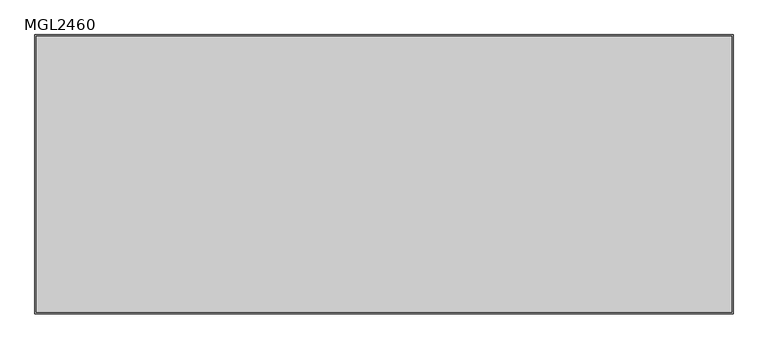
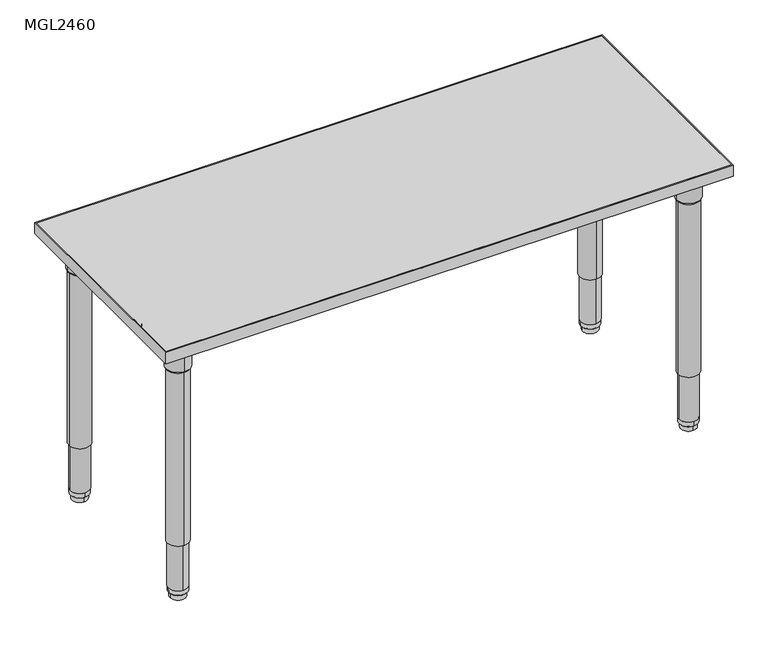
"""IFC4 building model written with IfcOpenShell, lengths in millimetres: furniture geometry, ERG-Mingle-Table-Rectangle : MGL2460."""

from ifc_helpers import new_model, si_unit, point, frame, frame_2d, origin, place, context, project, spatial, polyline, circle_curve, trimmed, segment, composite_curve, outline, extrude, source, transform, mapped, element, save
from ifc_brep_helpers import plane_surface, cylinder_surface, revolved_surface, advanced_brep


def mgl2460_92f67adb(model_context):
    return source(origin(), model_context, "Body", "SolidModel", [
        advanced_brep(
        [(655.7646842, -228.6, 650.5933069), (715.8353158, -228.6, 650.5933069), (685.8, -228.6, 650.5933069), (653.656117, -228.6, 654.3580481), (717.943883, -228.6, 654.3580481), (652.7206351, -228.6, 707.7631458), (718.8793649, -228.6, 707.7631458), (649.271083, -228.6, 714.1198315), (722.328917, -228.6, 714.1198315), (649.271083, -228.6, 726.8198315), (722.328917, -228.6, 726.8198315), (685.8, -228.6, 726.8198315)],
        [
            (0, 1, circle_curve(frame((685.8, -228.6, 650.5933069), z_axis=(0.0, 0.0, -1.0), x_axis=(1.0, 0.0, 0.0)), 30.0353158)),
            (1, 2),
            (2, 0),
            (1, 0, circle_curve(frame((685.8, -228.6, 650.5933069), z_axis=(0.0, 0.0, -1.0), x_axis=(1.0, 0.0, 0.0)), 30.0353158)),
            (3, 4, circle_curve(frame((685.8, -228.6, 654.3580481), z_axis=(0.0, 0.0, -1.0), x_axis=(1.0, 0.0, 0.0)), 32.143883)),
            (4, 1),
            (0, 3),
            (4, 3, circle_curve(frame((685.8, -228.6, 654.3580481), z_axis=(0.0, 0.0, -1.0), x_axis=(1.0, 0.0, 0.0)), 32.143883)),
            (5, 6, circle_curve(frame((685.8, -228.6, 707.7631458), z_axis=(0.0, 0.0, -1.0), x_axis=(1.0, 0.0, 0.0)), 33.0793649)),
            (6, 4),
            (3, 5),
            (6, 5, circle_curve(frame((685.8, -228.6, 707.7631458), z_axis=(0.0, 0.0, -1.0), x_axis=(1.0, 0.0, 0.0)), 33.0793649)),
            (7, 8, circle_curve(frame((685.8, -228.6, 714.1198315), z_axis=(0.0, 0.0, -1.0), x_axis=(1.0, 0.0, 0.0)), 36.528917)),
            (8, 6),
            (5, 7),
            (8, 7, circle_curve(frame((685.8, -228.6, 714.1198315), z_axis=(0.0, 0.0, -1.0), x_axis=(1.0, 0.0, 0.0)), 36.528917)),
            (9, 10, circle_curve(frame((685.8, -228.6, 726.8198315), z_axis=(0.0, 0.0, -1.0), x_axis=(1.0, 0.0, 0.0)), 36.528917)),
            (10, 8),
            (7, 9),
            (10, 9, circle_curve(frame((685.8, -228.6, 726.8198315), z_axis=(0.0, 0.0, -1.0), x_axis=(1.0, 0.0, 0.0)), 36.528917)),
            (11, 10),
            (9, 11),
        ],
        [
            plane_surface(frame((685.8, -228.6, 650.5933069), z_axis=(0.0, 0.0, -1.0), x_axis=(1.0, 0.0, 0.0))),
            revolved_surface(polyline([(715.8353158, -228.6, 650.5933069), (717.943883, -228.6, 654.3580481)]), (685.8, -228.6, 726.8198315), (0.0, 0.0, 1.0)),
            revolved_surface(polyline([(717.943883, -228.6, 654.3580481), (718.8793649, -228.6, 707.7631458)]), (685.8, -228.6, 726.8198315), (0.0, 0.0, 1.0)),
            revolved_surface(polyline([(718.8793649, -228.6, 707.7631458), (722.328917, -228.6, 714.1198315)]), (685.8, -228.6, 726.8198315), (0.0, 0.0, 1.0)),
            cylinder_surface(frame((685.8, -228.6, 726.8198315), z_axis=(0.0, 0.0, 1.0), x_axis=(1.0, 0.0, 0.0)), 36.528917),
            plane_surface(frame((685.8, -228.6, 726.8198315), z_axis=(0.0, 0.0, 1.0), x_axis=(1.0, 0.0, 0.0))),
        ],
        [
            (0, [[1, 2, 3]]),
            (0, [[4, -3, -2]]),
            (1, [[5, 6, -1, 7]]),
            (1, [[8, -7, -4, -6]]),
            (2, [[9, 10, -5, 11]]),
            (2, [[12, -11, -8, -10]]),
            (3, [[13, 14, -9, 15]]),
            (3, [[16, -15, -12, -14]]),
            (4, [[17, 18, -13, 19]]),
            (4, [[20, -19, -16, -18]]),
            (5, [[21, -17, 22]]),
            (5, [[-22, -20, -21]]),
        ],
    ),
        extrude(outline(composite_curve([segment(polyline([(731.673768, -146.0223426), (731.673768, -259.7483754)]), True, "CONTINUOUS"), segment(trimmed(circle_curve(frame_2d((715.798768, -259.7483754)), 15.875), [point((731.673768, -259.7483754))], [point((715.798768, -275.6233754))], False, "CARTESIAN"), True, "CONTINUOUS"), segment(polyline([(715.798768, -275.6233754), (602.0864205, -275.6233754)]), True, "CONTINUOUS"), segment(trimmed(circle_curve(frame_2d((602.0864205, -262.9233754)), 12.7), [point((602.0864205, -275.6233754))], [point((589.4491923, -261.6622394))], False, "CARTESIAN"), True, "CONTINUOUS"), segment(trimmed(circle_curve(frame_2d((731.9486077, -275.8830117)), 143.2072406), [point((589.4491923, -261.6622394))], [point((717.7111525, -133.3852622))], False, "CARTESIAN"), True, "CONTINUOUS"), segment(trimmed(circle_curve(frame_2d((718.973768, -146.0223426)), 12.7), [point((717.7111525, -133.3852622))], [point((731.673768, -146.0223426))], False, "CARTESIAN"), True, "CONTINUOUS")], self_intersect=False)), frame((0.0, 0.0, 726.8198315), z_axis=(0.0, 0.0, 1.0), x_axis=(1.0, 0.0, 0.0)), (0.0, 0.0, 1.0), 3.4301685),
        extrude(outline(composite_curve([segment(trimmed(circle_curve(frame_2d((685.8, -228.6)), 28.575), [point((714.375, -228.6))], [point((657.225, -228.6))], False, "CARTESIAN"), True, "CONTINUOUS"), segment(trimmed(circle_curve(frame_2d((685.8, -228.6)), 28.575), [point((657.225, -228.6))], [point((714.375, -228.6))], False, "CARTESIAN"), True, "CONTINUOUS")], self_intersect=False)), frame((0.0, 0.0, 158.3876979), z_axis=(0.0, 0.0, 1.0), x_axis=(1.0, 0.0, 0.0)), (0.0, 0.0, 1.0), 495.4089866),
        extrude(outline(composite_curve([segment(trimmed(circle_curve(frame_2d((685.8, -228.6)), 25.4), [point((711.2, -228.6))], [point((660.4, -228.6))], False, "CARTESIAN"), True, "CONTINUOUS"), segment(trimmed(circle_curve(frame_2d((685.8, -228.6)), 25.4), [point((660.4, -228.6))], [point((711.2, -228.6))], False, "CARTESIAN"), True, "CONTINUOUS")], self_intersect=False)), frame((0.0, 0.0, 28.9580435), z_axis=(0.0, 0.0, 1.0), x_axis=(1.0, 0.0, 0.0)), (0.0, 0.0, 1.0), 176.7049119),
        advanced_brep(
        [(685.8, -203.3649896, 28.9580185), (685.8, -253.8350104, 28.9580185), (685.8, -228.6, 28.9580185), (685.8, -203.500761, 16.3032949), (685.8, -253.699239, 16.3032949), (685.8, -205.0160619, 14.7291007), (685.8, -252.1839381, 14.7291007), (685.8, -207.4591422, 14.7291007), (685.8, -249.7408578, 14.7291007), (685.8, -207.6521336, 0.0), (685.8, -249.5478664, 0.0), (685.8, -228.6, 0.0)],
        [
            (0, 1, circle_curve(frame((685.8, -228.6, 28.9580185), z_axis=(0.0, 0.0, 1.0), x_axis=(0.0, -1.0, 0.0)), 25.2350104)),
            (1, 2),
            (2, 0),
            (1, 0, circle_curve(frame((685.8, -228.6, 28.9580185), z_axis=(0.0, 0.0, 1.0), x_axis=(0.0, -1.0, 0.0)), 25.2350104)),
            (3, 4, circle_curve(frame((685.8, -228.6, 16.3032949), z_axis=(0.0, 0.0, 1.0), x_axis=(0.0, -1.0, 0.0)), 25.099239)),
            (4, 1),
            (0, 3),
            (4, 3, circle_curve(frame((685.8, -228.6, 16.3032949), z_axis=(0.0, 0.0, 1.0), x_axis=(0.0, -1.0, 0.0)), 25.099239)),
            (5, 6, circle_curve(frame((685.8, -228.6, 14.7291007), z_axis=(0.0, 0.0, 1.0), x_axis=(0.0, -1.0, 0.0)), 23.5839381)),
            (6, 4),
            (3, 5),
            (6, 5, circle_curve(frame((685.8, -228.6, 14.7291007), z_axis=(0.0, 0.0, 1.0), x_axis=(0.0, -1.0, 0.0)), 23.5839381)),
            (7, 8, circle_curve(frame((685.8, -228.6, 14.7291007), z_axis=(0.0, 0.0, 1.0), x_axis=(0.0, -1.0, 0.0)), 21.1408578)),
            (8, 6),
            (5, 7),
            (8, 7, circle_curve(frame((685.8, -228.6, 14.7291007), z_axis=(0.0, 0.0, 1.0), x_axis=(0.0, -1.0, 0.0)), 21.1408578)),
            (9, 10, circle_curve(frame((685.8, -228.6, 0.0), z_axis=(0.0, 0.0, 1.0), x_axis=(0.0, -1.0, 0.0)), 20.9478664)),
            (10, 8),
            (7, 9),
            (10, 9, circle_curve(frame((685.8, -228.6, 0.0), z_axis=(0.0, 0.0, 1.0), x_axis=(0.0, -1.0, 0.0)), 20.9478664)),
            (11, 10),
            (9, 11),
        ],
        [
            plane_surface(frame((685.8, -228.6, 28.9580185), z_axis=(0.0, 0.0, 1.0), x_axis=(0.0, -1.0, 0.0))),
            revolved_surface(polyline([(685.8, -253.8350104, 28.9580185), (685.8, -253.699239, 16.3032949)]), (685.8, -228.6, 0.0), (0.0, 0.0, -1.0)),
            revolved_surface(polyline([(685.8, -253.699239, 16.3032949), (685.8, -252.1839381, 14.7291007)]), (685.8, -228.6, 0.0), (0.0, 0.0, -1.0)),
            plane_surface(frame((685.8, -228.6, 14.7291007), z_axis=(0.0, 0.0, -1.0), x_axis=(0.0, -1.0, 0.0))),
            revolved_surface(polyline([(685.8, -249.7408578, 14.7291007), (685.8, -249.5478664, 0.0)]), (685.8, -228.6, 0.0), (0.0, 0.0, -1.0)),
            plane_surface(frame((685.8, -228.6, 0.0), z_axis=(0.0, 0.0, -1.0), x_axis=(0.0, -1.0, 0.0))),
        ],
        [
            (0, [[1, 2, 3]]),
            (0, [[4, -3, -2]]),
            (1, [[5, 6, -1, 7]]),
            (1, [[8, -7, -4, -6]]),
            (2, [[9, 10, -5, 11]]),
            (2, [[12, -11, -8, -10]]),
            (3, [[13, 14, -9, 15]]),
            (3, [[16, -15, -12, -14]]),
            (4, [[17, 18, -13, 19]]),
            (4, [[20, -19, -16, -18]]),
            (5, [[21, -17, 22]]),
            (5, [[-22, -20, -21]]),
        ],
    ),
        advanced_brep(
        [(-685.8, -198.5646842, 650.5933069), (-685.8, -258.6353158, 650.5933069), (-685.8, -228.6, 650.5933069), (-685.8, -196.456117, 654.3580481), (-685.8, -260.743883, 654.3580481), (-685.8, -195.5206351, 707.7631458), (-685.8, -261.6793649, 707.7631458), (-685.8, -192.071083, 714.1198315), (-685.8, -265.128917, 714.1198315), (-685.8, -192.071083, 726.8198315), (-685.8, -265.128917, 726.8198315), (-685.8, -228.6, 726.8198315)],
        [
            (0, 1, circle_curve(frame((-685.8, -228.6, 650.5933069), z_axis=(0.0, 0.0, -1.0), x_axis=(0.0, -1.0, 0.0)), 30.0353158)),
            (1, 2),
            (2, 0),
            (1, 0, circle_curve(frame((-685.8, -228.6, 650.5933069), z_axis=(0.0, 0.0, -1.0), x_axis=(0.0, -1.0, 0.0)), 30.0353158)),
            (3, 4, circle_curve(frame((-685.8, -228.6, 654.3580481), z_axis=(0.0, 0.0, -1.0), x_axis=(0.0, -1.0, 0.0)), 32.143883)),
            (4, 1),
            (0, 3),
            (4, 3, circle_curve(frame((-685.8, -228.6, 654.3580481), z_axis=(0.0, 0.0, -1.0), x_axis=(0.0, -1.0, 0.0)), 32.143883)),
            (5, 6, circle_curve(frame((-685.8, -228.6, 707.7631458), z_axis=(0.0, 0.0, -1.0), x_axis=(0.0, -1.0, 0.0)), 33.0793649)),
            (6, 4),
            (3, 5),
            (6, 5, circle_curve(frame((-685.8, -228.6, 707.7631458), z_axis=(0.0, 0.0, -1.0), x_axis=(0.0, -1.0, 0.0)), 33.0793649)),
            (7, 8, circle_curve(frame((-685.8, -228.6, 714.1198315), z_axis=(0.0, 0.0, -1.0), x_axis=(0.0, -1.0, 0.0)), 36.528917)),
            (8, 6),
            (5, 7),
            (8, 7, circle_curve(frame((-685.8, -228.6, 714.1198315), z_axis=(0.0, 0.0, -1.0), x_axis=(0.0, -1.0, 0.0)), 36.528917)),
            (9, 10, circle_curve(frame((-685.8, -228.6, 726.8198315), z_axis=(0.0, 0.0, -1.0), x_axis=(0.0, -1.0, 0.0)), 36.528917)),
            (10, 8),
            (7, 9),
            (10, 9, circle_curve(frame((-685.8, -228.6, 726.8198315), z_axis=(0.0, 0.0, -1.0), x_axis=(0.0, -1.0, 0.0)), 36.528917)),
            (11, 10),
            (9, 11),
        ],
        [
            plane_surface(frame((-685.8, -228.6, 650.5933069), z_axis=(0.0, 0.0, -1.0), x_axis=(0.0, -1.0, 0.0))),
            revolved_surface(polyline([(-685.8, -258.6353158, 650.5933069), (-685.8, -260.743883, 654.3580481)]), (-685.8, -228.6, 726.8198315), (0.0, 0.0, 1.0)),
            revolved_surface(polyline([(-685.8, -260.743883, 654.3580481), (-685.8, -261.6793649, 707.7631458)]), (-685.8, -228.6, 726.8198315), (0.0, 0.0, 1.0)),
            revolved_surface(polyline([(-685.8, -261.6793649, 707.7631458), (-685.8, -265.128917, 714.1198315)]), (-685.8, -228.6, 726.8198315), (0.0, 0.0, 1.0)),
            cylinder_surface(frame((-685.8, -228.6, 726.8198315), z_axis=(0.0, 0.0, 1.0), x_axis=(0.0, -1.0, 0.0)), 36.528917),
            plane_surface(frame((-685.8, -228.6, 726.8198315), z_axis=(0.0, 0.0, 1.0), x_axis=(0.0, -1.0, 0.0))),
        ],
        [
            (0, [[1, 2, 3]]),
            (0, [[4, -3, -2]]),
            (1, [[5, 6, -1, 7]]),
            (1, [[8, -7, -4, -6]]),
            (2, [[9, 10, -5, 11]]),
            (2, [[12, -11, -8, -10]]),
            (3, [[13, 14, -9, 15]]),
            (3, [[16, -15, -12, -14]]),
            (4, [[17, 18, -13, 19]]),
            (4, [[20, -19, -16, -18]]),
            (5, [[21, -17, 22]]),
            (5, [[-22, -20, -21]]),
        ],
    ),
        extrude(outline(composite_curve([segment(polyline([(-603.2223426, -274.473768), (-716.9483754, -274.473768)]), True, "CONTINUOUS"), segment(trimmed(circle_curve(frame_2d((-716.9483754, -258.598768)), 15.875), [point((-716.9483754, -274.473768))], [point((-732.8233754, -258.598768))], False, "CARTESIAN"), True, "CONTINUOUS"), segment(polyline([(-732.8233754, -258.598768), (-732.8233754, -144.8864205)]), True, "CONTINUOUS"), segment(trimmed(circle_curve(frame_2d((-720.1233754, -144.8864205)), 12.7), [point((-732.8233754, -144.8864205))], [point((-718.8622394, -132.2491923))], False, "CARTESIAN"), True, "CONTINUOUS"), segment(trimmed(circle_curve(frame_2d((-733.0830117, -274.7486077)), 143.2072406), [point((-718.8622394, -132.2491923))], [point((-590.5852622, -260.5111525))], False, "CARTESIAN"), True, "CONTINUOUS"), segment(trimmed(circle_curve(frame_2d((-603.2223426, -261.773768)), 12.7), [point((-590.5852622, -260.5111525))], [point((-603.2223426, -274.473768))], False, "CARTESIAN"), True, "CONTINUOUS")], self_intersect=False)), frame((0.0, 0.0, 726.8198315), z_axis=(0.0, 0.0, 1.0), x_axis=(1.0, 0.0, 0.0)), (0.0, 0.0, 1.0), 3.4301685),
        extrude(outline(composite_curve([segment(trimmed(circle_curve(frame_2d((-685.8, -228.6)), 28.575), [point((-685.8, -257.175))], [point((-685.8, -200.025))], False, "CARTESIAN"), True, "CONTINUOUS"), segment(trimmed(circle_curve(frame_2d((-685.8, -228.6)), 28.575), [point((-685.8, -200.025))], [point((-685.8, -257.175))], False, "CARTESIAN"), True, "CONTINUOUS")], self_intersect=False)), frame((0.0, 0.0, 158.3876979), z_axis=(0.0, 0.0, 1.0), x_axis=(1.0, 0.0, 0.0)), (0.0, 0.0, 1.0), 495.4089866),
        extrude(outline(composite_curve([segment(trimmed(circle_curve(frame_2d((-685.8, -228.6)), 25.4), [point((-685.8, -254.0))], [point((-685.8, -203.2))], False, "CARTESIAN"), True, "CONTINUOUS"), segment(trimmed(circle_curve(frame_2d((-685.8, -228.6)), 25.4), [point((-685.8, -203.2))], [point((-685.8, -254.0))], False, "CARTESIAN"), True, "CONTINUOUS")], self_intersect=False)), frame((0.0, 0.0, 28.9580435), z_axis=(0.0, 0.0, 1.0), x_axis=(1.0, 0.0, 0.0)), (0.0, 0.0, 1.0), 176.7049119),
        advanced_brep(
        [(-660.5649896, -228.6, 28.9580185), (-711.0350104, -228.6, 28.9580185), (-685.8, -228.6, 28.9580185), (-660.700761, -228.6, 16.3032949), (-710.899239, -228.6, 16.3032949), (-662.2160619, -228.6, 14.7291007), (-709.3839381, -228.6, 14.7291007), (-664.6591422, -228.6, 14.7291007), (-706.9408578, -228.6, 14.7291007), (-664.8521336, -228.6, 0.0), (-706.7478664, -228.6, 0.0), (-685.8, -228.6, 0.0)],
        [
            (0, 1, circle_curve(frame((-685.8, -228.6, 28.9580185), z_axis=(0.0, 0.0, 1.0), x_axis=(-1.0, 0.0, 0.0)), 25.2350104)),
            (1, 2),
            (2, 0),
            (1, 0, circle_curve(frame((-685.8, -228.6, 28.9580185), z_axis=(0.0, 0.0, 1.0), x_axis=(-1.0, 0.0, 0.0)), 25.2350104)),
            (3, 4, circle_curve(frame((-685.8, -228.6, 16.3032949), z_axis=(0.0, 0.0, 1.0), x_axis=(-1.0, 0.0, 0.0)), 25.099239)),
            (4, 1),
            (0, 3),
            (4, 3, circle_curve(frame((-685.8, -228.6, 16.3032949), z_axis=(0.0, 0.0, 1.0), x_axis=(-1.0, 0.0, 0.0)), 25.099239)),
            (5, 6, circle_curve(frame((-685.8, -228.6, 14.7291007), z_axis=(0.0, 0.0, 1.0), x_axis=(-1.0, 0.0, 0.0)), 23.5839381)),
            (6, 4),
            (3, 5),
            (6, 5, circle_curve(frame((-685.8, -228.6, 14.7291007), z_axis=(0.0, 0.0, 1.0), x_axis=(-1.0, 0.0, 0.0)), 23.5839381)),
            (7, 8, circle_curve(frame((-685.8, -228.6, 14.7291007), z_axis=(0.0, 0.0, 1.0), x_axis=(-1.0, 0.0, 0.0)), 21.1408578)),
            (8, 6),
            (5, 7),
            (8, 7, circle_curve(frame((-685.8, -228.6, 14.7291007), z_axis=(0.0, 0.0, 1.0), x_axis=(-1.0, 0.0, 0.0)), 21.1408578)),
            (9, 10, circle_curve(frame((-685.8, -228.6, 0.0), z_axis=(0.0, 0.0, 1.0), x_axis=(-1.0, 0.0, 0.0)), 20.9478664)),
            (10, 8),
            (7, 9),
            (10, 9, circle_curve(frame((-685.8, -228.6, 0.0), z_axis=(0.0, 0.0, 1.0), x_axis=(-1.0, 0.0, 0.0)), 20.9478664)),
            (11, 10),
            (9, 11),
        ],
        [
            plane_surface(frame((-685.8, -228.6, 28.9580185), z_axis=(0.0, 0.0, 1.0), x_axis=(-1.0, 0.0, 0.0))),
            revolved_surface(polyline([(-711.0350104, -228.6, 28.9580185), (-710.899239, -228.6, 16.3032949)]), (-685.8, -228.6, 0.0), (0.0, 0.0, -1.0)),
            revolved_surface(polyline([(-710.899239, -228.6, 16.3032949), (-709.3839381, -228.6, 14.7291007)]), (-685.8, -228.6, 0.0), (0.0, 0.0, -1.0)),
            plane_surface(frame((-685.8, -228.6, 14.7291007), z_axis=(0.0, 0.0, -1.0), x_axis=(-1.0, 0.0, 0.0))),
            revolved_surface(polyline([(-706.9408578, -228.6, 14.7291007), (-706.7478664, -228.6, 0.0)]), (-685.8, -228.6, 0.0), (0.0, 0.0, -1.0)),
            plane_surface(frame((-685.8, -228.6, 0.0), z_axis=(0.0, 0.0, -1.0), x_axis=(-1.0, 0.0, 0.0))),
        ],
        [
            (0, [[1, 2, 3]]),
            (0, [[4, -3, -2]]),
            (1, [[5, 6, -1, 7]]),
            (1, [[8, -7, -4, -6]]),
            (2, [[9, 10, -5, 11]]),
            (2, [[12, -11, -8, -10]]),
            (3, [[13, 14, -9, 15]]),
            (3, [[16, -15, -12, -14]]),
            (4, [[17, 18, -13, 19]]),
            (4, [[20, -19, -16, -18]]),
            (5, [[21, -17, 22]]),
            (5, [[-22, -20, -21]]),
        ],
    ),
        advanced_brep(
        [(685.8, 198.5646842, 650.5933069), (685.8, 258.6353158, 650.5933069), (685.8, 228.6, 650.5933069), (685.8, 196.456117, 654.3580481), (685.8, 260.743883, 654.3580481), (685.8, 195.5206351, 707.7631458), (685.8, 261.6793649, 707.7631458), (685.8, 192.071083, 714.1198315), (685.8, 265.128917, 714.1198315), (685.8, 192.071083, 726.8198315), (685.8, 265.128917, 726.8198315), (685.8, 228.6, 726.8198315)],
        [
            (0, 1, circle_curve(frame((685.8, 228.6, 650.5933069), z_axis=(0.0, 0.0, -1.0), x_axis=(0.0, 1.0, 0.0)), 30.0353158)),
            (1, 2),
            (2, 0),
            (1, 0, circle_curve(frame((685.8, 228.6, 650.5933069), z_axis=(0.0, 0.0, -1.0), x_axis=(0.0, 1.0, 0.0)), 30.0353158)),
            (3, 4, circle_curve(frame((685.8, 228.6, 654.3580481), z_axis=(0.0, 0.0, -1.0), x_axis=(0.0, 1.0, 0.0)), 32.143883)),
            (4, 1),
            (0, 3),
            (4, 3, circle_curve(frame((685.8, 228.6, 654.3580481), z_axis=(0.0, 0.0, -1.0), x_axis=(0.0, 1.0, 0.0)), 32.143883)),
            (5, 6, circle_curve(frame((685.8, 228.6, 707.7631458), z_axis=(0.0, 0.0, -1.0), x_axis=(0.0, 1.0, 0.0)), 33.0793649)),
            (6, 4),
            (3, 5),
            (6, 5, circle_curve(frame((685.8, 228.6, 707.7631458), z_axis=(0.0, 0.0, -1.0), x_axis=(0.0, 1.0, 0.0)), 33.0793649)),
            (7, 8, circle_curve(frame((685.8, 228.6, 714.1198315), z_axis=(0.0, 0.0, -1.0), x_axis=(0.0, 1.0, 0.0)), 36.528917)),
            (8, 6),
            (5, 7),
            (8, 7, circle_curve(frame((685.8, 228.6, 714.1198315), z_axis=(0.0, 0.0, -1.0), x_axis=(0.0, 1.0, 0.0)), 36.528917)),
            (9, 10, circle_curve(frame((685.8, 228.6, 726.8198315), z_axis=(0.0, 0.0, -1.0), x_axis=(0.0, 1.0, 0.0)), 36.528917)),
            (10, 8),
            (7, 9),
            (10, 9, circle_curve(frame((685.8, 228.6, 726.8198315), z_axis=(0.0, 0.0, -1.0), x_axis=(0.0, 1.0, 0.0)), 36.528917)),
            (11, 10),
            (9, 11),
        ],
        [
            plane_surface(frame((685.8, 228.6, 650.5933069), z_axis=(0.0, 0.0, -1.0), x_axis=(0.0, 1.0, 0.0))),
            revolved_surface(polyline([(685.8, 258.6353158, 650.5933069), (685.8, 260.743883, 654.3580481)]), (685.8, 228.6, 726.8198315), (0.0, 0.0, 1.0)),
            revolved_surface(polyline([(685.8, 260.743883, 654.3580481), (685.8, 261.6793649, 707.7631458)]), (685.8, 228.6, 726.8198315), (0.0, 0.0, 1.0)),
            revolved_surface(polyline([(685.8, 261.6793649, 707.7631458), (685.8, 265.128917, 714.1198315)]), (685.8, 228.6, 726.8198315), (0.0, 0.0, 1.0)),
            cylinder_surface(frame((685.8, 228.6, 726.8198315), z_axis=(0.0, 0.0, 1.0), x_axis=(0.0, 1.0, 0.0)), 36.528917),
            plane_surface(frame((685.8, 228.6, 726.8198315), z_axis=(0.0, 0.0, 1.0), x_axis=(0.0, 1.0, 0.0))),
        ],
        [
            (0, [[1, 2, 3]]),
            (0, [[4, -3, -2]]),
            (1, [[5, 6, -1, 7]]),
            (1, [[8, -7, -4, -6]]),
            (2, [[9, 10, -5, 11]]),
            (2, [[12, -11, -8, -10]]),
            (3, [[13, 14, -9, 15]]),
            (3, [[16, -15, -12, -14]]),
            (4, [[17, 18, -13, 19]]),
            (4, [[20, -19, -16, -18]]),
            (5, [[21, -17, 22]]),
            (5, [[-22, -20, -21]]),
        ],
    ),
        extrude(outline(composite_curve([segment(polyline([(603.2223426, 274.473768), (716.9483754, 274.473768)]), True, "CONTINUOUS"), segment(trimmed(circle_curve(frame_2d((716.9483754, 258.598768)), 15.875), [point((716.9483754, 274.473768))], [point((732.8233754, 258.598768))], False, "CARTESIAN"), True, "CONTINUOUS"), segment(polyline([(732.8233754, 258.598768), (732.8233754, 144.8864205)]), True, "CONTINUOUS"), segment(trimmed(circle_curve(frame_2d((720.1233754, 144.8864205)), 12.7), [point((732.8233754, 144.8864205))], [point((718.8622394, 132.2491923))], False, "CARTESIAN"), True, "CONTINUOUS"), segment(trimmed(circle_curve(frame_2d((733.0830117, 274.7486077)), 143.2072406), [point((718.8622394, 132.2491923))], [point((590.5852622, 260.5111525))], False, "CARTESIAN"), True, "CONTINUOUS"), segment(trimmed(circle_curve(frame_2d((603.2223426, 261.773768)), 12.7), [point((590.5852622, 260.5111525))], [point((603.2223426, 274.473768))], False, "CARTESIAN"), True, "CONTINUOUS")], self_intersect=False)), frame((0.0, 0.0, 726.8198315), z_axis=(0.0, 0.0, 1.0), x_axis=(1.0, 0.0, 0.0)), (0.0, 0.0, 1.0), 3.4301685),
        extrude(outline(composite_curve([segment(trimmed(circle_curve(frame_2d((685.8, 228.6)), 28.575), [point((685.8, 257.175))], [point((685.8, 200.025))], False, "CARTESIAN"), True, "CONTINUOUS"), segment(trimmed(circle_curve(frame_2d((685.8, 228.6)), 28.575), [point((685.8, 200.025))], [point((685.8, 257.175))], False, "CARTESIAN"), True, "CONTINUOUS")], self_intersect=False)), frame((0.0, 0.0, 158.3876979), z_axis=(0.0, 0.0, 1.0), x_axis=(1.0, 0.0, 0.0)), (0.0, 0.0, 1.0), 495.4089866),
        extrude(outline(composite_curve([segment(trimmed(circle_curve(frame_2d((685.8, 228.6)), 25.4), [point((685.8, 254.0))], [point((685.8, 203.2))], False, "CARTESIAN"), True, "CONTINUOUS"), segment(trimmed(circle_curve(frame_2d((685.8, 228.6)), 25.4), [point((685.8, 203.2))], [point((685.8, 254.0))], False, "CARTESIAN"), True, "CONTINUOUS")], self_intersect=False)), frame((0.0, 0.0, 28.9580435), z_axis=(0.0, 0.0, 1.0), x_axis=(1.0, 0.0, 0.0)), (0.0, 0.0, 1.0), 176.7049119),
        advanced_brep(
        [(660.5649896, 228.6, 28.9580185), (711.0350104, 228.6, 28.9580185), (685.8, 228.6, 28.9580185), (660.700761, 228.6, 16.3032949), (710.899239, 228.6, 16.3032949), (662.2160619, 228.6, 14.7291007), (709.3839381, 228.6, 14.7291007), (664.6591422, 228.6, 14.7291007), (706.9408578, 228.6, 14.7291007), (664.8521336, 228.6, 0.0), (706.7478664, 228.6, 0.0), (685.8, 228.6, 0.0)],
        [
            (0, 1, circle_curve(frame((685.8, 228.6, 28.9580185), z_axis=(0.0, 0.0, 1.0), x_axis=(1.0, 0.0, 0.0)), 25.2350104)),
            (1, 2),
            (2, 0),
            (1, 0, circle_curve(frame((685.8, 228.6, 28.9580185), z_axis=(0.0, 0.0, 1.0), x_axis=(1.0, 0.0, 0.0)), 25.2350104)),
            (3, 4, circle_curve(frame((685.8, 228.6, 16.3032949), z_axis=(0.0, 0.0, 1.0), x_axis=(1.0, 0.0, 0.0)), 25.099239)),
            (4, 1),
            (0, 3),
            (4, 3, circle_curve(frame((685.8, 228.6, 16.3032949), z_axis=(0.0, 0.0, 1.0), x_axis=(1.0, 0.0, 0.0)), 25.099239)),
            (5, 6, circle_curve(frame((685.8, 228.6, 14.7291007), z_axis=(0.0, 0.0, 1.0), x_axis=(1.0, 0.0, 0.0)), 23.5839381)),
            (6, 4),
            (3, 5),
            (6, 5, circle_curve(frame((685.8, 228.6, 14.7291007), z_axis=(0.0, 0.0, 1.0), x_axis=(1.0, 0.0, 0.0)), 23.5839381)),
            (7, 8, circle_curve(frame((685.8, 228.6, 14.7291007), z_axis=(0.0, 0.0, 1.0), x_axis=(1.0, 0.0, 0.0)), 21.1408578)),
            (8, 6),
            (5, 7),
            (8, 7, circle_curve(frame((685.8, 228.6, 14.7291007), z_axis=(0.0, 0.0, 1.0), x_axis=(1.0, 0.0, 0.0)), 21.1408578)),
            (9, 10, circle_curve(frame((685.8, 228.6, 0.0), z_axis=(0.0, 0.0, 1.0), x_axis=(1.0, 0.0, 0.0)), 20.9478664)),
            (10, 8),
            (7, 9),
            (10, 9, circle_curve(frame((685.8, 228.6, 0.0), z_axis=(0.0, 0.0, 1.0), x_axis=(1.0, 0.0, 0.0)), 20.9478664)),
            (11, 10),
            (9, 11),
        ],
        [
            plane_surface(frame((685.8, 228.6, 28.9580185), z_axis=(0.0, 0.0, 1.0), x_axis=(1.0, 0.0, 0.0))),
            revolved_surface(polyline([(711.0350104, 228.6, 28.9580185), (710.899239, 228.6, 16.3032949)]), (685.8, 228.6, 0.0), (0.0, 0.0, -1.0)),
            revolved_surface(polyline([(710.899239, 228.6, 16.3032949), (709.3839381, 228.6, 14.7291007)]), (685.8, 228.6, 0.0), (0.0, 0.0, -1.0)),
            plane_surface(frame((685.8, 228.6, 14.7291007), z_axis=(0.0, 0.0, -1.0), x_axis=(1.0, 0.0, 0.0))),
            revolved_surface(polyline([(706.9408578, 228.6, 14.7291007), (706.7478664, 228.6, 0.0)]), (685.8, 228.6, 0.0), (0.0, 0.0, -1.0)),
            plane_surface(frame((685.8, 228.6, 0.0), z_axis=(0.0, 0.0, -1.0), x_axis=(1.0, 0.0, 0.0))),
        ],
        [
            (0, [[1, 2, 3]]),
            (0, [[4, -3, -2]]),
            (1, [[5, 6, -1, 7]]),
            (1, [[8, -7, -4, -6]]),
            (2, [[9, 10, -5, 11]]),
            (2, [[12, -11, -8, -10]]),
            (3, [[13, 14, -9, 15]]),
            (3, [[16, -15, -12, -14]]),
            (4, [[17, 18, -13, 19]]),
            (4, [[20, -19, -16, -18]]),
            (5, [[21, -17, 22]]),
            (5, [[-22, -20, -21]]),
        ],
    ),
        advanced_brep(
        [(-655.7646842, 228.6, 650.5933069), (-715.8353158, 228.6, 650.5933069), (-685.8, 228.6, 650.5933069), (-653.656117, 228.6, 654.3580481), (-717.943883, 228.6, 654.3580481), (-652.7206351, 228.6, 707.7631458), (-718.8793649, 228.6, 707.7631458), (-649.271083, 228.6, 714.1198315), (-722.328917, 228.6, 714.1198315), (-649.271083, 228.6, 726.8198315), (-722.328917, 228.6, 726.8198315), (-685.8, 228.6, 726.8198315)],
        [
            (0, 1, circle_curve(frame((-685.8, 228.6, 650.5933069), z_axis=(0.0, 0.0, -1.0), x_axis=(-1.0, 0.0, 0.0)), 30.0353158)),
            (1, 2),
            (2, 0),
            (1, 0, circle_curve(frame((-685.8, 228.6, 650.5933069), z_axis=(0.0, 0.0, -1.0), x_axis=(-1.0, 0.0, 0.0)), 30.0353158)),
            (3, 4, circle_curve(frame((-685.8, 228.6, 654.3580481), z_axis=(0.0, 0.0, -1.0), x_axis=(-1.0, 0.0, 0.0)), 32.143883)),
            (4, 1),
            (0, 3),
            (4, 3, circle_curve(frame((-685.8, 228.6, 654.3580481), z_axis=(0.0, 0.0, -1.0), x_axis=(-1.0, 0.0, 0.0)), 32.143883)),
            (5, 6, circle_curve(frame((-685.8, 228.6, 707.7631458), z_axis=(0.0, 0.0, -1.0), x_axis=(-1.0, 0.0, 0.0)), 33.0793649)),
            (6, 4),
            (3, 5),
            (6, 5, circle_curve(frame((-685.8, 228.6, 707.7631458), z_axis=(0.0, 0.0, -1.0), x_axis=(-1.0, 0.0, 0.0)), 33.0793649)),
            (7, 8, circle_curve(frame((-685.8, 228.6, 714.1198315), z_axis=(0.0, 0.0, -1.0), x_axis=(-1.0, 0.0, 0.0)), 36.528917)),
            (8, 6),
            (5, 7),
            (8, 7, circle_curve(frame((-685.8, 228.6, 714.1198315), z_axis=(0.0, 0.0, -1.0), x_axis=(-1.0, 0.0, 0.0)), 36.528917)),
            (9, 10, circle_curve(frame((-685.8, 228.6, 726.8198315), z_axis=(0.0, 0.0, -1.0), x_axis=(-1.0, 0.0, 0.0)), 36.528917)),
            (10, 8),
            (7, 9),
            (10, 9, circle_curve(frame((-685.8, 228.6, 726.8198315), z_axis=(0.0, 0.0, -1.0), x_axis=(-1.0, 0.0, 0.0)), 36.528917)),
            (11, 10),
            (9, 11),
        ],
        [
            plane_surface(frame((-685.8, 228.6, 650.5933069), z_axis=(0.0, 0.0, -1.0), x_axis=(-1.0, 0.0, 0.0))),
            revolved_surface(polyline([(-715.8353158, 228.6, 650.5933069), (-717.943883, 228.6, 654.3580481)]), (-685.8, 228.6, 726.8198315), (0.0, 0.0, 1.0)),
            revolved_surface(polyline([(-717.943883, 228.6, 654.3580481), (-718.8793649, 228.6, 707.7631458)]), (-685.8, 228.6, 726.8198315), (0.0, 0.0, 1.0)),
            revolved_surface(polyline([(-718.8793649, 228.6, 707.7631458), (-722.328917, 228.6, 714.1198315)]), (-685.8, 228.6, 726.8198315), (0.0, 0.0, 1.0)),
            cylinder_surface(frame((-685.8, 228.6, 726.8198315), z_axis=(0.0, 0.0, 1.0), x_axis=(-1.0, 0.0, 0.0)), 36.528917),
            plane_surface(frame((-685.8, 228.6, 726.8198315), z_axis=(0.0, 0.0, 1.0), x_axis=(-1.0, 0.0, 0.0))),
        ],
        [
            (0, [[1, 2, 3]]),
            (0, [[4, -3, -2]]),
            (1, [[5, 6, -1, 7]]),
            (1, [[8, -7, -4, -6]]),
            (2, [[9, 10, -5, 11]]),
            (2, [[12, -11, -8, -10]]),
            (3, [[13, 14, -9, 15]]),
            (3, [[16, -15, -12, -14]]),
            (4, [[17, 18, -13, 19]]),
            (4, [[20, -19, -16, -18]]),
            (5, [[21, -17, 22]]),
            (5, [[-22, -20, -21]]),
        ],
    ),
        extrude(outline(composite_curve([segment(polyline([(-731.673768, 146.0223426), (-731.673768, 259.7483754)]), True, "CONTINUOUS"), segment(trimmed(circle_curve(frame_2d((-715.798768, 259.7483754)), 15.875), [point((-731.673768, 259.7483754))], [point((-715.798768, 275.6233754))], False, "CARTESIAN"), True, "CONTINUOUS"), segment(polyline([(-715.798768, 275.6233754), (-602.0864205, 275.6233754)]), True, "CONTINUOUS"), segment(trimmed(circle_curve(frame_2d((-602.0864205, 262.9233754)), 12.7), [point((-602.0864205, 275.6233754))], [point((-589.4491923, 261.6622394))], False, "CARTESIAN"), True, "CONTINUOUS"), segment(trimmed(circle_curve(frame_2d((-731.9486077, 275.8830117)), 143.2072406), [point((-589.4491923, 261.6622394))], [point((-717.7111525, 133.3852622))], False, "CARTESIAN"), True, "CONTINUOUS"), segment(trimmed(circle_curve(frame_2d((-718.973768, 146.0223426)), 12.7), [point((-717.7111525, 133.3852622))], [point((-731.673768, 146.0223426))], False, "CARTESIAN"), True, "CONTINUOUS")], self_intersect=False)), frame((0.0, 0.0, 726.8198315), z_axis=(0.0, 0.0, 1.0), x_axis=(1.0, 0.0, 0.0)), (0.0, 0.0, 1.0), 3.4301685),
        extrude(outline(composite_curve([segment(trimmed(circle_curve(frame_2d((-685.8, 228.6)), 28.575), [point((-714.375, 228.6))], [point((-657.225, 228.6))], False, "CARTESIAN"), True, "CONTINUOUS"), segment(trimmed(circle_curve(frame_2d((-685.8, 228.6)), 28.575), [point((-657.225, 228.6))], [point((-714.375, 228.6))], False, "CARTESIAN"), True, "CONTINUOUS")], self_intersect=False)), frame((0.0, 0.0, 158.3876979), z_axis=(0.0, 0.0, 1.0), x_axis=(1.0, 0.0, 0.0)), (0.0, 0.0, 1.0), 495.4089866),
        extrude(outline(composite_curve([segment(trimmed(circle_curve(frame_2d((-685.8, 228.6)), 25.4), [point((-711.2, 228.6))], [point((-660.4, 228.6))], False, "CARTESIAN"), True, "CONTINUOUS"), segment(trimmed(circle_curve(frame_2d((-685.8, 228.6)), 25.4), [point((-660.4, 228.6))], [point((-711.2, 228.6))], False, "CARTESIAN"), True, "CONTINUOUS")], self_intersect=False)), frame((0.0, 0.0, 28.9580435), z_axis=(0.0, 0.0, 1.0), x_axis=(1.0, 0.0, 0.0)), (0.0, 0.0, 1.0), 176.7049119),
        advanced_brep(
        [(-685.8, 203.3649896, 28.9580185), (-685.8, 253.8350104, 28.9580185), (-685.8, 228.6, 28.9580185), (-685.8, 203.500761, 16.3032949), (-685.8, 253.699239, 16.3032949), (-685.8, 205.0160619, 14.7291007), (-685.8, 252.1839381, 14.7291007), (-685.8, 207.4591422, 14.7291007), (-685.8, 249.7408578, 14.7291007), (-685.8, 207.6521336, 0.0), (-685.8, 249.5478664, 0.0), (-685.8, 228.6, 0.0)],
        [
            (0, 1, circle_curve(frame((-685.8, 228.6, 28.9580185), z_axis=(0.0, 0.0, 1.0), x_axis=(0.0, 1.0, 0.0)), 25.2350104)),
            (1, 2),
            (2, 0),
            (1, 0, circle_curve(frame((-685.8, 228.6, 28.9580185), z_axis=(0.0, 0.0, 1.0), x_axis=(0.0, 1.0, 0.0)), 25.2350104)),
            (3, 4, circle_curve(frame((-685.8, 228.6, 16.3032949), z_axis=(0.0, 0.0, 1.0), x_axis=(0.0, 1.0, 0.0)), 25.099239)),
            (4, 1),
            (0, 3),
            (4, 3, circle_curve(frame((-685.8, 228.6, 16.3032949), z_axis=(0.0, 0.0, 1.0), x_axis=(0.0, 1.0, 0.0)), 25.099239)),
            (5, 6, circle_curve(frame((-685.8, 228.6, 14.7291007), z_axis=(0.0, 0.0, 1.0), x_axis=(0.0, 1.0, 0.0)), 23.5839381)),
            (6, 4),
            (3, 5),
            (6, 5, circle_curve(frame((-685.8, 228.6, 14.7291007), z_axis=(0.0, 0.0, 1.0), x_axis=(0.0, 1.0, 0.0)), 23.5839381)),
            (7, 8, circle_curve(frame((-685.8, 228.6, 14.7291007), z_axis=(0.0, 0.0, 1.0), x_axis=(0.0, 1.0, 0.0)), 21.1408578)),
            (8, 6),
            (5, 7),
            (8, 7, circle_curve(frame((-685.8, 228.6, 14.7291007), z_axis=(0.0, 0.0, 1.0), x_axis=(0.0, 1.0, 0.0)), 21.1408578)),
            (9, 10, circle_curve(frame((-685.8, 228.6, 0.0), z_axis=(0.0, 0.0, 1.0), x_axis=(0.0, 1.0, 0.0)), 20.9478664)),
            (10, 8),
            (7, 9),
            (10, 9, circle_curve(frame((-685.8, 228.6, 0.0), z_axis=(0.0, 0.0, 1.0), x_axis=(0.0, 1.0, 0.0)), 20.9478664)),
            (11, 10),
            (9, 11),
        ],
        [
            plane_surface(frame((-685.8, 228.6, 28.9580185), z_axis=(0.0, 0.0, 1.0), x_axis=(0.0, 1.0, 0.0))),
            revolved_surface(polyline([(-685.8, 253.8350104, 28.9580185), (-685.8, 253.699239, 16.3032949)]), (-685.8, 228.6, 0.0), (0.0, 0.0, -1.0)),
            revolved_surface(polyline([(-685.8, 253.699239, 16.3032949), (-685.8, 252.1839381, 14.7291007)]), (-685.8, 228.6, 0.0), (0.0, 0.0, -1.0)),
            plane_surface(frame((-685.8, 228.6, 14.7291007), z_axis=(0.0, 0.0, -1.0), x_axis=(0.0, 1.0, 0.0))),
            revolved_surface(polyline([(-685.8, 249.7408578, 14.7291007), (-685.8, 249.5478664, 0.0)]), (-685.8, 228.6, 0.0), (0.0, 0.0, -1.0)),
            plane_surface(frame((-685.8, 228.6, 0.0), z_axis=(0.0, 0.0, -1.0), x_axis=(0.0, 1.0, 0.0))),
        ],
        [
            (0, [[1, 2, 3]]),
            (0, [[4, -3, -2]]),
            (1, [[5, 6, -1, 7]]),
            (1, [[8, -7, -4, -6]]),
            (2, [[9, 10, -5, 11]]),
            (2, [[12, -11, -8, -10]]),
            (3, [[13, 14, -9, 15]]),
            (3, [[16, -15, -12, -14]]),
            (4, [[17, 18, -13, 19]]),
            (4, [[20, -19, -16, -18]]),
            (5, [[21, -17, 22]]),
            (5, [[-22, -20, -21]]),
        ],
    ),
        extrude(outline(polyline([(-758.825, 301.625), (758.825, 301.625), (758.825, -301.625), (-758.825, -301.625), (-758.825, 301.625)])), frame((0.0, 0.0, 730.25), z_axis=(0.0, 0.0, 1.0), x_axis=(1.0, 0.0, 0.0)), (0.0, 0.0, 1.0), 31.75),
        extrude(outline(polyline([(762.0, -304.8), (-762.0, -304.8), (-762.0, 304.8), (762.0, 304.8), (762.0, -304.8)]), holes=[polyline([(758.825, 301.625), (-758.825, 301.625), (-758.825, -301.625), (758.825, -301.625), (758.825, 301.625)])]), frame((0.0, 0.0, 730.25), z_axis=(0.0, 0.0, 1.0), x_axis=(1.0, 0.0, 0.0)), (0.0, 0.0, 1.0), 31.75),
    ])


if __name__ == "__main__":
    model = new_model("IFC4")
    model_context = context("Model", 3, world=origin())
    ifc_project = project(units=[si_unit("LENGTHUNIT", "METRE", prefix="MILLI")], contexts=[model_context])
    site = spatial("IfcSite", under=ifc_project)
    building = spatial("IfcBuilding", under=site)
    placement = place(None, origin())
    mgl2460_shape = mgl2460_92f67adb(model_context)
    element("IfcFurniture", 1, ObjectType="ERG-Mingle-Table-Rectangle : MGL2460", at=placement, inside=building, context=model_context, shape_type="MappedRepresentation", body=[
        mapped(mgl2460_shape, transform((0.0, 0.0, 0.0), x_axis=(1.0, 0.0, 0.0), y_axis=(0.0, 1.0, 0.0), z_axis=(0.0, 0.0, 1.0))),
    ])
    save(model, "model.ifc")
